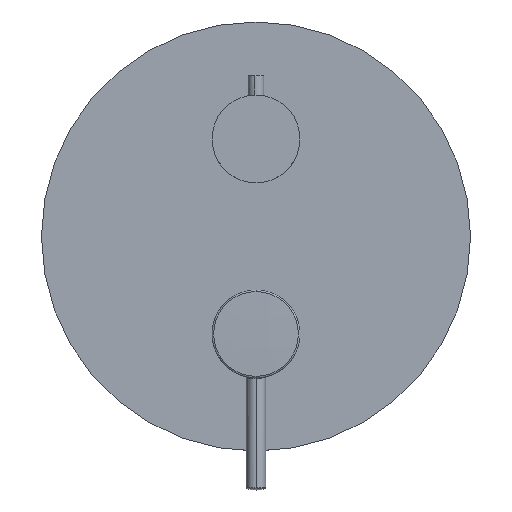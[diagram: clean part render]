
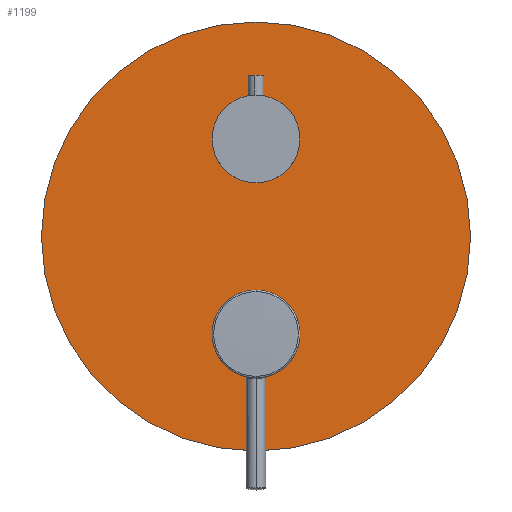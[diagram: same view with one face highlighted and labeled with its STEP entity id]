
A CAD part, top view. The second image highlights one B-rep face of the part: STEP entity #1199.
In plain terms, the highlighted planar face has unit normal (0, 0, 1).
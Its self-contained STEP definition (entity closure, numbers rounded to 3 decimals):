
#7 = EDGE_CURVE ( 'NONE', #677, #2455, #876, .T. ) ;
#28 = DIRECTION ( 'NONE',  ( 0., 0., 1. ) ) ;
#66 = VERTEX_POINT ( 'NONE', #2319 ) ;
#70 = DIRECTION ( 'NONE',  ( -1., 0., 0. ) ) ;
#85 = ORIENTED_EDGE ( 'NONE', *, *, #7, .T. ) ;
#183 = EDGE_CURVE ( 'NONE', #3364, #1050, #1204, .T. ) ;
#239 = DIRECTION ( 'NONE',  ( 0., 0., 1. ) ) ;
#256 = DIRECTION ( 'NONE',  ( 1., 0., 0. ) ) ;
#264 = DIRECTION ( 'NONE',  ( 1., 0., 0. ) ) ;
#301 = CIRCLE ( 'NONE', #3056, 22.5 ) ;
#404 = DIRECTION ( 'NONE',  ( 0., 0., 1. ) ) ;
#450 = EDGE_CURVE ( 'NONE', #66, #2282, #1767, .T. ) ;
#479 = PLANE ( 'NONE',  #3383 ) ;
#508 = DIRECTION ( 'NONE',  ( 0., 0., 1. ) ) ;
#548 = ORIENTED_EDGE ( 'NONE', *, *, #3622, .F. ) ;
#567 = CARTESIAN_POINT ( 'NONE',  ( 0., 0., 2. ) ) ;
#595 = LINE ( 'NONE', #2042, #3527 ) ;
#677 = VERTEX_POINT ( 'NONE', #952 ) ;
#742 = CARTESIAN_POINT ( 'NONE',  ( -21.191, -49.374, 2. ) ) ;
#743 = EDGE_CURVE ( 'NONE', #2282, #66, #1236, .T. ) ;
#825 = FACE_OUTER_BOUND ( 'NONE', #1127, .T. ) ;
#861 = ORIENTED_EDGE ( 'NONE', *, *, #183, .F. ) ;
#876 = CIRCLE ( 'NONE', #2965, 110. ) ;
#951 = CIRCLE ( 'NONE', #2521, 22.5 ) ;
#952 = CARTESIAN_POINT ( 'NONE',  ( 110., 0., 2. ) ) ;
#1012 = CIRCLE ( 'NONE', #2690, 21.2 ) ;
#1050 = VERTEX_POINT ( 'NONE', #1184 ) ;
#1069 = DIRECTION ( 'NONE',  ( 0., -1., 0. ) ) ;
#1092 = CARTESIAN_POINT ( 'NONE',  ( 0., -50., 2. ) ) ;
#1127 = EDGE_LOOP ( 'NONE', ( #2308, #85 ) ) ;
#1176 = EDGE_LOOP ( 'NONE', ( #861, #2827, #1380, #1423, #548 ) ) ;
#1184 = CARTESIAN_POINT ( 'NONE',  ( -22.491, -49.374, 2. ) ) ;
#1199 = ADVANCED_FACE ( 'NONE', ( #3662, #825, #2757 ), #479, .T. ) ;
#1204 = LINE ( 'NONE', #1243, #2128 ) ;
#1223 = DIRECTION ( 'NONE',  ( 0., 0., 1. ) ) ;
#1236 = CIRCLE ( 'NONE', #1661, 22.5 ) ;
#1243 = CARTESIAN_POINT ( 'NONE',  ( 0., -49.374, 2. ) ) ;
#1248 = CARTESIAN_POINT ( 'NONE',  ( -110., 0., 2. ) ) ;
#1380 = ORIENTED_EDGE ( 'NONE', *, *, #3074, .F. ) ;
#1414 = VERTEX_POINT ( 'NONE', #3654 ) ;
#1423 = ORIENTED_EDGE ( 'NONE', *, *, #2258, .F. ) ;
#1481 = VERTEX_POINT ( 'NONE', #2340 ) ;
#1634 = CARTESIAN_POINT ( 'NONE',  ( 0., 0., 2. ) ) ;
#1661 = AXIS2_PLACEMENT_3D ( 'NONE', #3011, #404, #1819 ) ;
#1767 = CIRCLE ( 'NONE', #2322, 22.5 ) ;
#1811 = AXIS2_PLACEMENT_3D ( 'NONE', #567, #508, #264 ) ;
#1819 = DIRECTION ( 'NONE',  ( 1., 0., 0. ) ) ;
#1961 = DIRECTION ( 'NONE',  ( 0., 0., 1. ) ) ;
#2042 = CARTESIAN_POINT ( 'NONE',  ( 0., -49.374, 2. ) ) ;
#2072 = DIRECTION ( 'NONE',  ( 0., 0., 1. ) ) ;
#2128 = VECTOR ( 'NONE', #2698, 1000. ) ;
#2185 = EDGE_CURVE ( 'NONE', #2455, #677, #2943, .T. ) ;
#2220 = VERTEX_POINT ( 'NONE', #3093 ) ;
#2258 = EDGE_CURVE ( 'NONE', #1481, #2220, #301, .T. ) ;
#2282 = VERTEX_POINT ( 'NONE', #2870 ) ;
#2308 = ORIENTED_EDGE ( 'NONE', *, *, #2185, .T. ) ;
#2319 = CARTESIAN_POINT ( 'NONE',  ( -22.5, 50., 2. ) ) ;
#2322 = AXIS2_PLACEMENT_3D ( 'NONE', #2360, #2072, #3530 ) ;
#2340 = CARTESIAN_POINT ( 'NONE',  ( 0., -72.5, 2. ) ) ;
#2360 = CARTESIAN_POINT ( 'NONE',  ( 0., 50., 2. ) ) ;
#2375 = DIRECTION ( 'NONE',  ( 0.893, -0.45, 0. ) ) ;
#2381 = ORIENTED_EDGE ( 'NONE', *, *, #743, .F. ) ;
#2384 = CARTESIAN_POINT ( 'NONE',  ( 0., -50., 2. ) ) ;
#2455 = VERTEX_POINT ( 'NONE', #1248 ) ;
#2521 = AXIS2_PLACEMENT_3D ( 'NONE', #2384, #28, #3210 ) ;
#2628 = CARTESIAN_POINT ( 'NONE',  ( 0., 0., 2. ) ) ;
#2660 = DIRECTION ( 'NONE',  ( 0., 0., -1. ) ) ;
#2690 = AXIS2_PLACEMENT_3D ( 'NONE', #2939, #2660, #2375 ) ;
#2698 = DIRECTION ( 'NONE',  ( -1., 0., 0. ) ) ;
#2757 = FACE_BOUND ( 'NONE', #1176, .T. ) ;
#2789 = EDGE_CURVE ( 'NONE', #3364, #1414, #1012, .T. ) ;
#2827 = ORIENTED_EDGE ( 'NONE', *, *, #2789, .T. ) ;
#2870 = CARTESIAN_POINT ( 'NONE',  ( 22.5, 50., 2. ) ) ;
#2932 = DIRECTION ( 'NONE',  ( 1., 0., 0. ) ) ;
#2939 = CARTESIAN_POINT ( 'NONE',  ( 0., -50., 2. ) ) ;
#2943 = CIRCLE ( 'NONE', #1811, 110. ) ;
#2965 = AXIS2_PLACEMENT_3D ( 'NONE', #2628, #1223, #2932 ) ;
#3011 = CARTESIAN_POINT ( 'NONE',  ( 0., 50., 2. ) ) ;
#3056 = AXIS2_PLACEMENT_3D ( 'NONE', #1092, #239, #1069 ) ;
#3074 = EDGE_CURVE ( 'NONE', #2220, #1414, #595, .T. ) ;
#3093 = CARTESIAN_POINT ( 'NONE',  ( 22.491, -49.374, 2. ) ) ;
#3210 = DIRECTION ( 'NONE',  ( 0., -1., 0. ) ) ;
#3286 = ORIENTED_EDGE ( 'NONE', *, *, #450, .F. ) ;
#3364 = VERTEX_POINT ( 'NONE', #742 ) ;
#3383 = AXIS2_PLACEMENT_3D ( 'NONE', #1634, #1961, #256 ) ;
#3525 = EDGE_LOOP ( 'NONE', ( #3286, #2381 ) ) ;
#3527 = VECTOR ( 'NONE', #70, 1000. ) ;
#3530 = DIRECTION ( 'NONE',  ( 1., 0., 0. ) ) ;
#3622 = EDGE_CURVE ( 'NONE', #1050, #1481, #951, .T. ) ;
#3654 = CARTESIAN_POINT ( 'NONE',  ( 21.191, -49.374, 2. ) ) ;
#3662 = FACE_BOUND ( 'NONE', #3525, .T. ) ;
